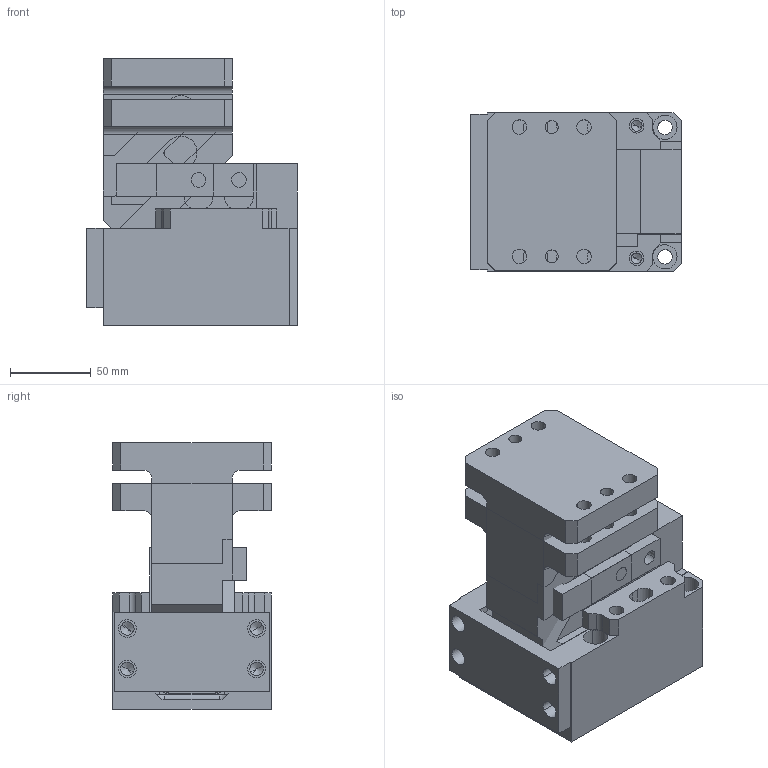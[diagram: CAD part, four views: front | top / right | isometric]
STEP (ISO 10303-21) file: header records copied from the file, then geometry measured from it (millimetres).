
FILE_DESCRIPTION(('CATIA V5 STEP','CAx-IF Rec.Pracs.--- Model Styling and Organization---1.4--- 2014-01-23','CAx-IF Rec.Pracs.---3D Tessellated Data Validation Properties---0.5---2014-09-14'),'2;1');
FILE_NAME('H:\_COMPRESS_2\2016.11.00.052.025.1.2__CM.stp','2020-11-18T12:45:25+00:00',('${USER}'),('AUDI AG, ${GROUP}'),'CATIA Version 5-6 Release 2018 SP3 HF27','CATIA V5 STEP AP242','none');
FILE_SCHEMA(('AP242_MANAGED_MODEL_BASED_3D_ENGINEERING_MIM_LF {1 0 10303 442 1 1 4}'));
Length unit declared in the file: millimetre
Products named in the file (1): 2016.11.00.052.025.1.2__CM
Bounding box: 130 x 98 x 165 mm (x, y, z)
Volume: 1725176.5 mm3; surface area: 235690.3 mm2
Topology: 4 solids, 4 shells, 419 faces, 1092 edges, 702 vertices
Faces by surface type: plane 224, cylinder 157, cone 32, sphere 4, bspline 2
Entity records: 12098 total; most frequent: CARTESIAN_POINT 2244, ORIENTED_EDGE 2138, DIRECTION 1694, EDGE_CURVE 1069, VECTOR 716, LINE 716, VERTEX_POINT 698, AXIS2_PLACEMENT_3D 662
